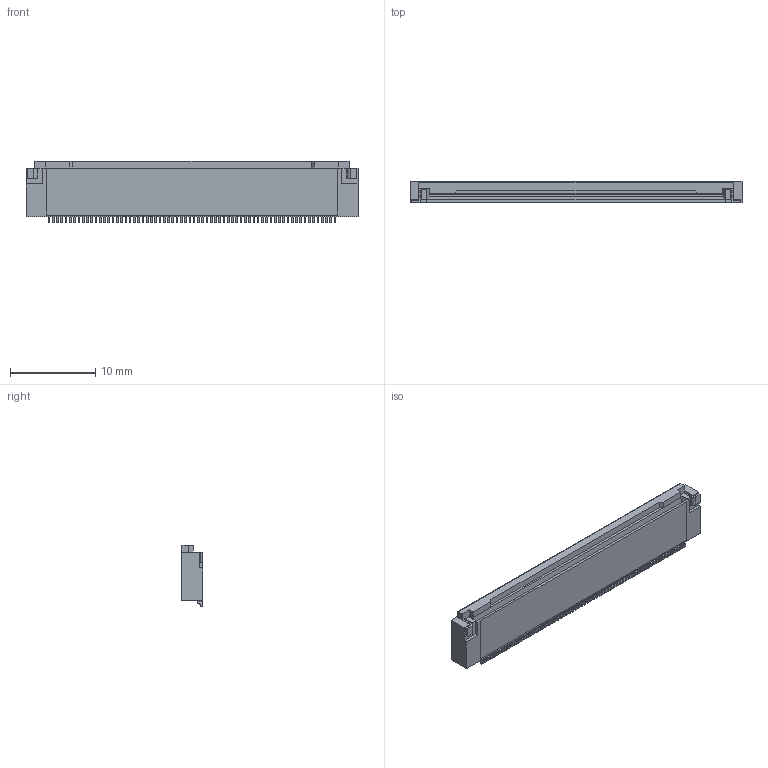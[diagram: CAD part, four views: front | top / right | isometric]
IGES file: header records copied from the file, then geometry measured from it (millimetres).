
Start section: SolidWorks IGES file using analytic representation for surfaces
Global section: file name: 01HC:\3dworks\金子\MINIFLEX5-FF\STEP再作成\ACT　CLOSE\IGES\20647-068E-01 ASS'Y ACT CLOSE STEP R2 ALL.IGS; native system: SolidWorks 2014; preprocessor: SolidWorks 2014; author: ieng2-003; date: 161003.232743; units: millimetre
Bounding box: 38.9 x 2.55 x 7.2 mm (x, y, z)
Surface area: 970.3 mm2 (no closed solid volume)
Topology: 0 solids, 0 shells, 1807 faces, 12126 edges, 12126 vertices
Faces by surface type: bspline 1115, revolution 692
